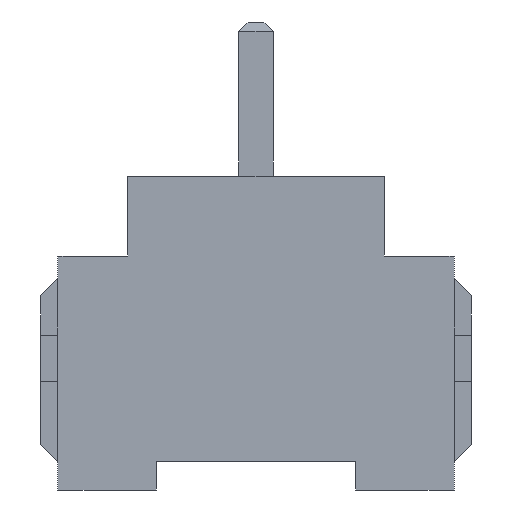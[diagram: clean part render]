
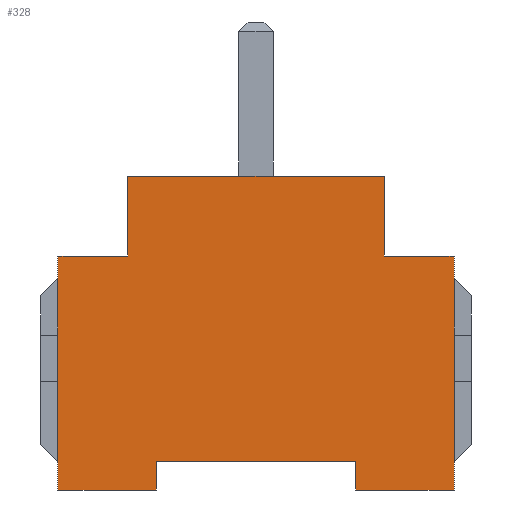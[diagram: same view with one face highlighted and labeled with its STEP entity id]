
A CAD part, left-side view. The second image highlights one B-rep face of the part: STEP entity #328.
In plain terms, the highlighted planar face has unit normal (-1, 0, 0).
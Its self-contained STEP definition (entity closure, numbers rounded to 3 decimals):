
#328=ADVANCED_FACE('',(#730),#731,.T.);
#730=FACE_OUTER_BOUND('',#1055,.T.);
#731=PLANE('',#1056);
#1055=EDGE_LOOP('',(#2050,#2051,#2052,#2053,#2054,#2055,#2056,#2057,#2058,#2059,#2060,#2061));
#1056=AXIS2_PLACEMENT_3D('',#2062,#2063,#2064);
#2050=ORIENTED_EDGE('',*,*,#2426,.F.);
#2051=ORIENTED_EDGE('',*,*,#2452,.F.);
#2052=ORIENTED_EDGE('',*,*,#2342,.F.);
#2053=ORIENTED_EDGE('',*,*,#2450,.F.);
#2054=ORIENTED_EDGE('',*,*,#2447,.F.);
#2055=ORIENTED_EDGE('',*,*,#2444,.F.);
#2056=ORIENTED_EDGE('',*,*,#2441,.F.);
#2057=ORIENTED_EDGE('',*,*,#2438,.F.);
#2058=ORIENTED_EDGE('',*,*,#2330,.F.);
#2059=ORIENTED_EDGE('',*,*,#2436,.F.);
#2060=ORIENTED_EDGE('',*,*,#2433,.F.);
#2061=ORIENTED_EDGE('',*,*,#2430,.F.);
#2062=CARTESIAN_POINT('',(-22.0,0.,20.89));
#2063=DIRECTION('',(-1.0,0.0,0.));
#2064=DIRECTION('',(0.,0.0,1.0));
#2330=EDGE_CURVE('',#2806,#2807,#2808,.T.);
#2342=EDGE_CURVE('',#2830,#2831,#2832,.T.);
#2426=EDGE_CURVE('',#2966,#2967,#2968,.T.);
#2430=EDGE_CURVE('',#2967,#2974,#2975,.T.);
#2433=EDGE_CURVE('',#2974,#2979,#2980,.T.);
#2436=EDGE_CURVE('',#2979,#2806,#2984,.T.);
#2438=EDGE_CURVE('',#2807,#2986,#2987,.T.);
#2441=EDGE_CURVE('',#2986,#2991,#2992,.T.);
#2444=EDGE_CURVE('',#2991,#2996,#2997,.T.);
#2447=EDGE_CURVE('',#2996,#3001,#3002,.T.);
#2450=EDGE_CURVE('',#3001,#2830,#3006,.T.);
#2452=EDGE_CURVE('',#2831,#2966,#3008,.T.);
#2806=VERTEX_POINT('',#3414);
#2807=VERTEX_POINT('',#3415);
#2808=LINE('',#3416,#3417);
#2830=VERTEX_POINT('',#3450);
#2831=VERTEX_POINT('',#3451);
#2832=LINE('',#3452,#3453);
#2966=VERTEX_POINT('',#3670);
#2967=VERTEX_POINT('',#3671);
#2968=LINE('',#3672,#3673);
#2974=VERTEX_POINT('',#3682);
#2975=LINE('',#3683,#3684);
#2979=VERTEX_POINT('',#3690);
#2980=LINE('',#3691,#3692);
#2984=LINE('',#3698,#3699);
#2986=VERTEX_POINT('',#3702);
#2987=LINE('',#3703,#3704);
#2991=VERTEX_POINT('',#3710);
#2992=LINE('',#3711,#3712);
#2996=VERTEX_POINT('',#3718);
#2997=LINE('',#3719,#3720);
#3001=VERTEX_POINT('',#3726);
#3002=LINE('',#3727,#3728);
#3006=LINE('',#3734,#3735);
#3008=LINE('',#3738,#3739);
#3414=CARTESIAN_POINT('',(-22.0,34.7,-5.0));
#3415=CARTESIAN_POINT('',(-22.0,34.7,36.0));
#3416=CARTESIAN_POINT('',(-22.0,34.7,-5.0));
#3417=VECTOR('',#3950,1.0);
#3450=CARTESIAN_POINT('',(-22.0,-34.7,36.0));
#3451=CARTESIAN_POINT('',(-22.0,-34.7,-5.0));
#3452=CARTESIAN_POINT('',(-22.0,-34.7,-5.0));
#3453=VECTOR('',#3962,1.0);
#3670=CARTESIAN_POINT('',(-22.0,-17.5,-5.0));
#3671=CARTESIAN_POINT('',(-22.0,-17.5,0.));
#3672=CARTESIAN_POINT('',(-22.0,-17.5,-5.0));
#3673=VECTOR('',#4046,1.0);
#3682=CARTESIAN_POINT('',(-22.0,17.5,0.));
#3683=CARTESIAN_POINT('',(-22.0,-17.5,0.));
#3684=VECTOR('',#4050,1.0);
#3690=CARTESIAN_POINT('',(-22.0,17.5,-5.0));
#3691=CARTESIAN_POINT('',(-22.0,17.5,-5.0));
#3692=VECTOR('',#4053,1.0);
#3698=CARTESIAN_POINT('',(-22.0,17.5,-5.0));
#3699=VECTOR('',#4056,1.0);
#3702=CARTESIAN_POINT('',(-22.0,22.5,36.0));
#3703=CARTESIAN_POINT('',(-22.0,22.5,36.0));
#3704=VECTOR('',#4058,1.0);
#3710=CARTESIAN_POINT('',(-22.0,22.5,50.0));
#3711=CARTESIAN_POINT('',(-22.0,22.5,36.0));
#3712=VECTOR('',#4061,1.0);
#3718=CARTESIAN_POINT('',(-22.0,-22.5,50.0));
#3719=CARTESIAN_POINT('',(-22.0,-22.5,50.0));
#3720=VECTOR('',#4064,1.0);
#3726=CARTESIAN_POINT('',(-22.0,-22.5,36.0));
#3727=CARTESIAN_POINT('',(-22.0,-22.5,36.0));
#3728=VECTOR('',#4067,1.0);
#3734=CARTESIAN_POINT('',(-22.0,-34.7,36.0));
#3735=VECTOR('',#4070,1.0);
#3738=CARTESIAN_POINT('',(-22.0,-34.7,-5.0));
#3739=VECTOR('',#4072,1.0);
#3950=DIRECTION('',(0.,0.0,1.0));
#3962=DIRECTION('',(0.,0.,-1.0));
#4046=DIRECTION('',(0.,0.0,1.0));
#4050=DIRECTION('',(0.,1.0,0.));
#4053=DIRECTION('',(0.,-0.0,-1.0));
#4056=DIRECTION('',(0.0,1.0,0.0));
#4058=DIRECTION('',(0.0,-1.0,-0.0));
#4061=DIRECTION('',(0.,0.,1.0));
#4064=DIRECTION('',(0.0,-1.0,-0.0));
#4067=DIRECTION('',(0.,-0.0,-1.0));
#4070=DIRECTION('',(0.0,-1.0,-0.0));
#4072=DIRECTION('',(0.,1.0,0.));
